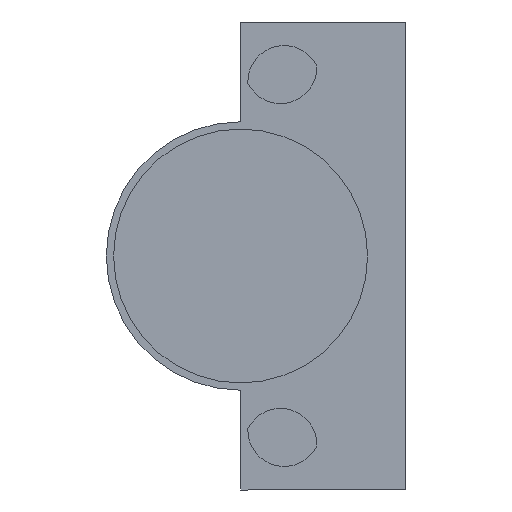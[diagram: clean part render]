
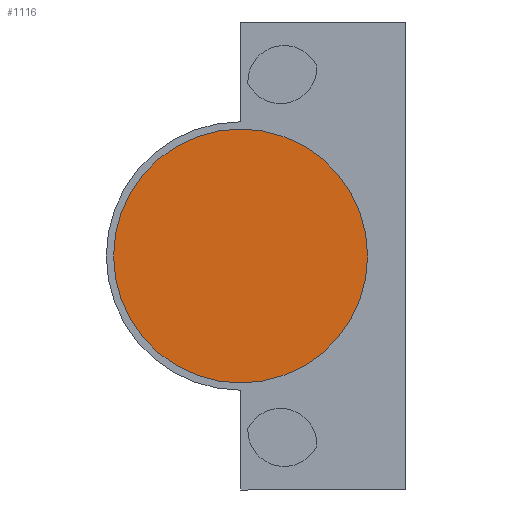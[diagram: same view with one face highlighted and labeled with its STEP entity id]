
A CAD part, front view. The second image highlights one B-rep face of the part: STEP entity #1116.
In plain terms, the highlighted planar face has unit normal (0, -1, 0).
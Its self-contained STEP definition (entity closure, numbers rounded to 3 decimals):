
#34 = CIRCLE ( 'NONE', #235, 17.5 ) ;
#158 = DIRECTION ( 'NONE',  ( 1., 0., 0. ) ) ;
#159 = EDGE_CURVE ( 'NONE', #1401, #1206, #34, .T. ) ;
#161 = DIRECTION ( 'NONE',  ( 0., -1., 0. ) ) ;
#166 = CARTESIAN_POINT ( 'NONE',  ( 12., -51.1, 0. ) ) ;
#176 = CIRCLE ( 'NONE', #1497, 17.5 ) ;
#235 = AXIS2_PLACEMENT_3D ( 'NONE', #415, #412, #403 ) ;
#313 = EDGE_CURVE ( 'NONE', #1206, #1401, #176, .T. ) ;
#403 = DIRECTION ( 'NONE',  ( 1., 0., 0. ) ) ;
#412 = DIRECTION ( 'NONE',  ( 0., -1., 0. ) ) ;
#415 = CARTESIAN_POINT ( 'NONE',  ( 12., -51.1, 0. ) ) ;
#874 = EDGE_LOOP ( 'NONE', ( #1289, #1079 ) ) ;
#892 = CARTESIAN_POINT ( 'NONE',  ( -5.5, -51.1, 0. ) ) ;
#1079 = ORIENTED_EDGE ( 'NONE', *, *, #313, .T. ) ;
#1116 = ADVANCED_FACE ( 'NONE', ( #1458 ), #1472, .T. ) ;
#1206 = VERTEX_POINT ( 'NONE', #1302 ) ;
#1289 = ORIENTED_EDGE ( 'NONE', *, *, #159, .T. ) ;
#1302 = CARTESIAN_POINT ( 'NONE',  ( 29.5, -51.1, 0. ) ) ;
#1401 = VERTEX_POINT ( 'NONE', #892 ) ;
#1443 = DIRECTION ( 'NONE',  ( 1., 0., 0. ) ) ;
#1448 = DIRECTION ( 'NONE',  ( 0., -1., 0. ) ) ;
#1458 = FACE_OUTER_BOUND ( 'NONE', #874, .T. ) ;
#1472 = PLANE ( 'NONE',  #1486 ) ;
#1486 = AXIS2_PLACEMENT_3D ( 'NONE', #1488, #1448, #1443 ) ;
#1488 = CARTESIAN_POINT ( 'NONE',  ( 12., -51.1, 0. ) ) ;
#1497 = AXIS2_PLACEMENT_3D ( 'NONE', #166, #161, #158 ) ;
